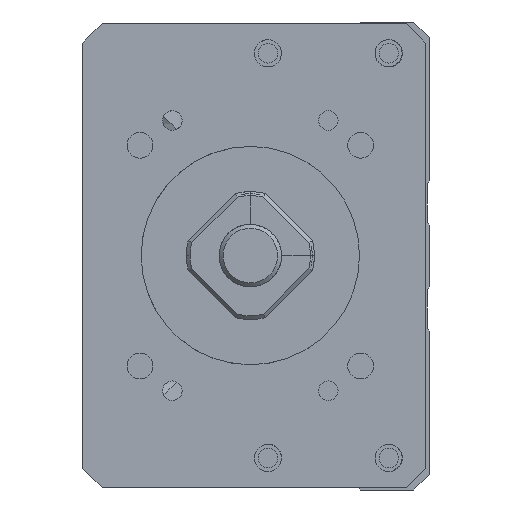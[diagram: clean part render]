
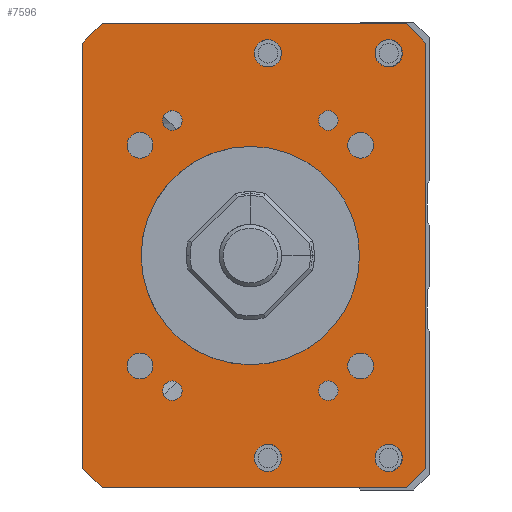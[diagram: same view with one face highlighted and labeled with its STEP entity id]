
A CAD part, left-side view. The second image highlights one B-rep face of the part: STEP entity #7596.
In plain terms, the highlighted planar face has unit normal (-1, 0, 0).
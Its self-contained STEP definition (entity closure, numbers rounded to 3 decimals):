
#4614=CIRCLE('',#15042,14.);
#4623=CIRCLE('',#15053,1.65);
#4624=CIRCLE('',#15054,1.65);
#4625=CIRCLE('',#15055,1.65);
#4626=CIRCLE('',#15056,1.65);
#4627=CIRCLE('',#15057,1.25);
#4628=CIRCLE('',#15058,1.75);
#4629=CIRCLE('',#15059,1.25);
#4630=CIRCLE('',#15060,1.75);
#4631=CIRCLE('',#15061,1.25);
#4632=CIRCLE('',#15062,1.75);
#4633=CIRCLE('',#15063,1.75);
#4634=CIRCLE('',#15064,1.25);
#5073=PLANE('',#15065);
#5973=LINE('',#19597,#6792);
#5975=LINE('',#19621,#6794);
#5976=LINE('',#19623,#6795);
#5977=LINE('',#19625,#6796);
#5978=LINE('',#19627,#6797);
#5979=LINE('',#19629,#6798);
#5980=LINE('',#19631,#6799);
#5981=LINE('',#19633,#6800);
#6792=VECTOR('',#16594,1.);
#6794=VECTOR('',#16618,1.);
#6795=VECTOR('',#16619,1.);
#6796=VECTOR('',#16620,1.);
#6797=VECTOR('',#16621,1.);
#6798=VECTOR('',#16622,1.);
#6799=VECTOR('',#16623,1.);
#6800=VECTOR('',#16624,1.);
#7596=ADVANCED_FACE('',(#8378,#8379,#8380,#8381,#8382,#8383,#8384,#8385,
#8386,#8387,#8388,#8389,#8390,#8391),#5073,.F.);
#8378=FACE_BOUND('',#8919,.T.);
#8379=FACE_BOUND('',#8920,.T.);
#8380=FACE_BOUND('',#8921,.T.);
#8381=FACE_BOUND('',#8922,.T.);
#8382=FACE_BOUND('',#8923,.T.);
#8383=FACE_BOUND('',#8924,.T.);
#8384=FACE_BOUND('',#8925,.T.);
#8385=FACE_BOUND('',#8926,.T.);
#8386=FACE_BOUND('',#8927,.T.);
#8387=FACE_BOUND('',#8928,.T.);
#8388=FACE_BOUND('',#8929,.T.);
#8389=FACE_BOUND('',#8930,.T.);
#8390=FACE_BOUND('',#8931,.T.);
#8391=FACE_BOUND('',#8932,.T.);
#8919=EDGE_LOOP('',(#10280));
#8920=EDGE_LOOP('',(#10281));
#8921=EDGE_LOOP('',(#10282));
#8922=EDGE_LOOP('',(#10283));
#8923=EDGE_LOOP('',(#10284));
#8924=EDGE_LOOP('',(#10285));
#8925=EDGE_LOOP('',(#10286));
#8926=EDGE_LOOP('',(#10287));
#8927=EDGE_LOOP('',(#10288));
#8928=EDGE_LOOP('',(#10289,#10290,#10291,#10292,#10293,#10294,#10295,#10296));
#8929=EDGE_LOOP('',(#10297));
#8930=EDGE_LOOP('',(#10298));
#8931=EDGE_LOOP('',(#10299));
#8932=EDGE_LOOP('',(#10300));
#10280=ORIENTED_EDGE('',*,*,#13653,.F.);
#10281=ORIENTED_EDGE('',*,*,#13654,.F.);
#10282=ORIENTED_EDGE('',*,*,#13655,.F.);
#10283=ORIENTED_EDGE('',*,*,#13656,.F.);
#10284=ORIENTED_EDGE('',*,*,#13657,.F.);
#10285=ORIENTED_EDGE('',*,*,#13658,.T.);
#10286=ORIENTED_EDGE('',*,*,#13659,.F.);
#10287=ORIENTED_EDGE('',*,*,#13660,.F.);
#10288=ORIENTED_EDGE('',*,*,#13661,.F.);
#10289=ORIENTED_EDGE('',*,*,#13650,.T.);
#10290=ORIENTED_EDGE('',*,*,#13662,.T.);
#10291=ORIENTED_EDGE('',*,*,#13663,.F.);
#10292=ORIENTED_EDGE('',*,*,#13664,.T.);
#10293=ORIENTED_EDGE('',*,*,#13665,.F.);
#10294=ORIENTED_EDGE('',*,*,#13666,.T.);
#10295=ORIENTED_EDGE('',*,*,#13667,.T.);
#10296=ORIENTED_EDGE('',*,*,#13668,.T.);
#10297=ORIENTED_EDGE('',*,*,#13669,.F.);
#10298=ORIENTED_EDGE('',*,*,#13670,.F.);
#10299=ORIENTED_EDGE('',*,*,#13671,.F.);
#10300=ORIENTED_EDGE('',*,*,#13630,.F.);
#12558=VERTEX_POINT('',#19520);
#12578=VERTEX_POINT('',#19596);
#12579=VERTEX_POINT('',#19598);
#12581=VERTEX_POINT('',#19604);
#12582=VERTEX_POINT('',#19606);
#12583=VERTEX_POINT('',#19608);
#12584=VERTEX_POINT('',#19610);
#12585=VERTEX_POINT('',#19612);
#12586=VERTEX_POINT('',#19614);
#12587=VERTEX_POINT('',#19616);
#12588=VERTEX_POINT('',#19618);
#12589=VERTEX_POINT('',#19620);
#12590=VERTEX_POINT('',#19622);
#12591=VERTEX_POINT('',#19624);
#12592=VERTEX_POINT('',#19626);
#12593=VERTEX_POINT('',#19628);
#12594=VERTEX_POINT('',#19630);
#12595=VERTEX_POINT('',#19632);
#12596=VERTEX_POINT('',#19635);
#12597=VERTEX_POINT('',#19637);
#12598=VERTEX_POINT('',#19639);
#13630=EDGE_CURVE('',#12558,#12558,#4614,.T.);
#13650=EDGE_CURVE('',#12579,#12578,#5973,.T.);
#13653=EDGE_CURVE('',#12581,#12581,#4623,.T.);
#13654=EDGE_CURVE('',#12582,#12582,#4624,.T.);
#13655=EDGE_CURVE('',#12583,#12583,#4625,.T.);
#13656=EDGE_CURVE('',#12584,#12584,#4626,.T.);
#13657=EDGE_CURVE('',#12585,#12585,#4627,.T.);
#13658=EDGE_CURVE('',#12586,#12586,#4628,.T.);
#13659=EDGE_CURVE('',#12587,#12587,#4629,.T.);
#13660=EDGE_CURVE('',#12588,#12588,#4630,.T.);
#13661=EDGE_CURVE('',#12589,#12589,#4631,.T.);
#13662=EDGE_CURVE('',#12578,#12590,#5975,.T.);
#13663=EDGE_CURVE('',#12591,#12590,#5976,.T.);
#13664=EDGE_CURVE('',#12591,#12592,#5977,.T.);
#13665=EDGE_CURVE('',#12593,#12592,#5978,.T.);
#13666=EDGE_CURVE('',#12593,#12594,#5979,.T.);
#13667=EDGE_CURVE('',#12594,#12595,#5980,.T.);
#13668=EDGE_CURVE('',#12595,#12579,#5981,.T.);
#13669=EDGE_CURVE('',#12596,#12596,#4632,.T.);
#13670=EDGE_CURVE('',#12597,#12597,#4633,.T.);
#13671=EDGE_CURVE('',#12598,#12598,#4634,.T.);
#15042=AXIS2_PLACEMENT_3D('',#19519,#16568,#16569);
#15053=AXIS2_PLACEMENT_3D('',#19603,#16600,#16601);
#15054=AXIS2_PLACEMENT_3D('',#19605,#16602,#16603);
#15055=AXIS2_PLACEMENT_3D('',#19607,#16604,#16605);
#15056=AXIS2_PLACEMENT_3D('',#19609,#16606,#16607);
#15057=AXIS2_PLACEMENT_3D('',#19611,#16608,#16609);
#15058=AXIS2_PLACEMENT_3D('',#19613,#16610,#16611);
#15059=AXIS2_PLACEMENT_3D('',#19615,#16612,#16613);
#15060=AXIS2_PLACEMENT_3D('',#19617,#16614,#16615);
#15061=AXIS2_PLACEMENT_3D('',#19619,#16616,#16617);
#15062=AXIS2_PLACEMENT_3D('',#19634,#16625,#16626);
#15063=AXIS2_PLACEMENT_3D('',#19636,#16627,#16628);
#15064=AXIS2_PLACEMENT_3D('',#19638,#16629,#16630);
#15065=AXIS2_PLACEMENT_3D('',#19640,#16631,#16632);
#16568=DIRECTION('',(-1.,0.,0.));
#16569=DIRECTION('',(0.,1.,0.));
#16594=DIRECTION('',(0.,0.,-1.));
#16600=DIRECTION('',(-1.,0.,0.));
#16601=DIRECTION('',(0.,0.,1.));
#16602=DIRECTION('',(-1.,0.,0.));
#16603=DIRECTION('',(0.,0.,1.));
#16604=DIRECTION('',(-1.,0.,0.));
#16605=DIRECTION('',(0.,0.,1.));
#16606=DIRECTION('',(-1.,0.,0.));
#16607=DIRECTION('',(0.,0.,1.));
#16608=DIRECTION('',(-1.,0.,0.));
#16609=DIRECTION('',(0.,1.,0.));
#16610=DIRECTION('',(1.,0.,0.));
#16611=DIRECTION('',(0.,0.,1.));
#16612=DIRECTION('',(-1.,0.,0.));
#16613=DIRECTION('',(0.,1.,0.));
#16614=DIRECTION('',(-1.,0.,0.));
#16615=DIRECTION('',(0.,0.,1.));
#16616=DIRECTION('',(-1.,0.,0.));
#16617=DIRECTION('',(0.,1.,0.));
#16618=DIRECTION('',(0.,-0.707,-0.707));
#16619=DIRECTION('',(0.,1.,0.));
#16620=DIRECTION('',(0.,-0.707,0.707));
#16621=DIRECTION('',(0.,0.,-1.));
#16622=DIRECTION('',(0.,0.707,0.707));
#16623=DIRECTION('',(0.,1.,0.));
#16624=DIRECTION('',(0.,0.707,-0.707));
#16625=DIRECTION('',(-1.,0.,0.));
#16626=DIRECTION('',(0.,0.,1.));
#16627=DIRECTION('',(-1.,0.,0.));
#16628=DIRECTION('',(0.,0.,1.));
#16629=DIRECTION('',(-1.,0.,0.));
#16630=DIRECTION('',(0.,1.,0.));
#16631=DIRECTION('',(1.,0.,0.));
#16632=DIRECTION('',(0.,-1.,0.));
#19519=CARTESIAN_POINT('',(-211.,0.,-200.));
#19520=CARTESIAN_POINT('',(-211.,14.,-200.));
#19596=CARTESIAN_POINT('',(-211.,21.499,-227.25));
#19597=CARTESIAN_POINT('',(-211.,21.499,-170.25));
#19598=CARTESIAN_POINT('',(-211.,21.499,-172.75));
#19603=CARTESIAN_POINT('',(-211.,14.142,-185.858));
#19604=CARTESIAN_POINT('',(-211.,14.142,-184.208));
#19605=CARTESIAN_POINT('',(-211.,-14.142,-185.858));
#19606=CARTESIAN_POINT('',(-211.,-14.142,-184.208));
#19607=CARTESIAN_POINT('',(-211.,14.142,-214.142));
#19608=CARTESIAN_POINT('',(-211.,14.142,-212.492));
#19609=CARTESIAN_POINT('',(-211.,-14.142,-214.142));
#19610=CARTESIAN_POINT('',(-211.,-14.142,-212.492));
#19611=CARTESIAN_POINT('',(-211.,-10.,-217.321));
#19612=CARTESIAN_POINT('',(-211.,-8.75,-217.321));
#19613=CARTESIAN_POINT('',(-211.,-2.25,-225.936));
#19614=CARTESIAN_POINT('',(-211.,-2.25,-224.186));
#19615=CARTESIAN_POINT('',(-211.,10.,-182.679));
#19616=CARTESIAN_POINT('',(-211.,11.25,-182.679));
#19617=CARTESIAN_POINT('',(-211.,-2.25,-174.064));
#19618=CARTESIAN_POINT('',(-211.,-2.25,-172.314));
#19619=CARTESIAN_POINT('',(-211.,10.,-217.321));
#19620=CARTESIAN_POINT('',(-211.,11.25,-217.321));
#19621=CARTESIAN_POINT('',(-211.,18.999,-229.75));
#19622=CARTESIAN_POINT('',(-211.,18.999,-229.75));
#19623=CARTESIAN_POINT('',(-211.,-22.501,-229.75));
#19624=CARTESIAN_POINT('',(-211.,-20.001,-229.75));
#19625=CARTESIAN_POINT('',(-211.,-22.501,-227.25));
#19626=CARTESIAN_POINT('',(-211.,-22.501,-227.25));
#19627=CARTESIAN_POINT('',(-211.,-22.501,-170.25));
#19628=CARTESIAN_POINT('',(-211.,-22.501,-172.75));
#19629=CARTESIAN_POINT('',(-211.,-22.501,-172.75));
#19630=CARTESIAN_POINT('',(-211.,-20.001,-170.25));
#19631=CARTESIAN_POINT('',(-211.,-22.501,-170.25));
#19632=CARTESIAN_POINT('',(-211.,18.999,-170.25));
#19633=CARTESIAN_POINT('',(-211.,18.999,-170.25));
#19634=CARTESIAN_POINT('',(-211.,-17.75,-174.064));
#19635=CARTESIAN_POINT('',(-211.,-17.75,-172.314));
#19636=CARTESIAN_POINT('',(-211.,-17.75,-225.936));
#19637=CARTESIAN_POINT('',(-211.,-17.75,-224.186));
#19638=CARTESIAN_POINT('',(-211.,-10.,-182.679));
#19639=CARTESIAN_POINT('',(-211.,-8.75,-182.679));
#19640=CARTESIAN_POINT('',(-211.,-22.501,-170.25));
